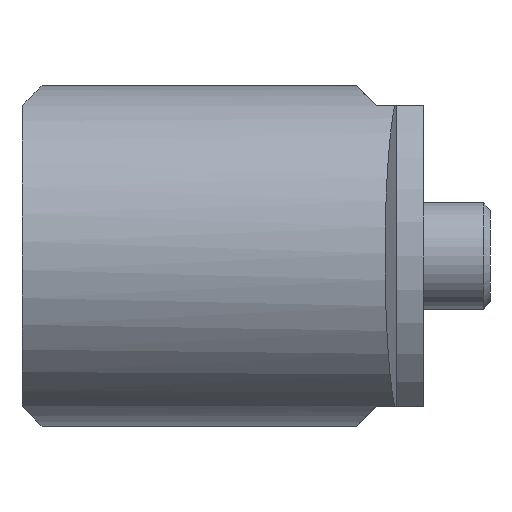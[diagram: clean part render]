
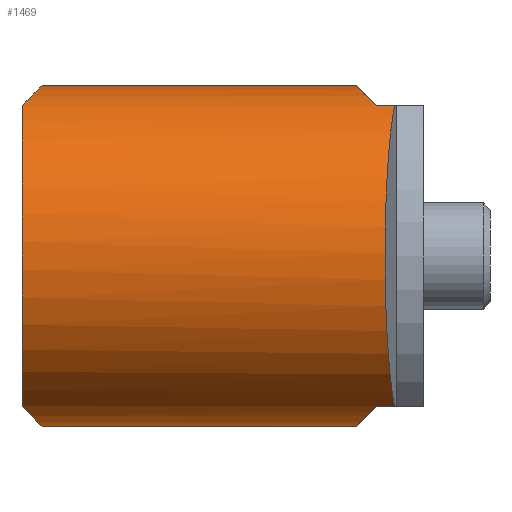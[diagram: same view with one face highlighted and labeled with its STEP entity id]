
A CAD part, left-side view. The second image highlights one B-rep face of the part: STEP entity #1469.
In plain terms, the highlighted cylindrical face has radius 12.75 mm (diameter 25.5 mm), a partial arc.
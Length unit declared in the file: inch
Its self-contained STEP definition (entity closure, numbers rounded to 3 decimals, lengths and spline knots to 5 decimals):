
#33=ELLIPSE('',#1576,0.70989,0.50197);
#34=ELLIPSE('',#1579,0.70989,0.50197);
#35=ELLIPSE('',#1582,0.70989,0.50197);
#36=ELLIPSE('',#1584,0.70989,0.50197);
#37=ELLIPSE('',#1588,0.50473,0.50197);
#115=FACE_OUTER_BOUND('',#198,.T.);
#198=EDGE_LOOP('',(#980,#981,#982,#983,#984,#985,#986,#987,#988,#989));
#294=LINE('',#2295,#372);
#307=LINE('',#2325,#385);
#316=LINE('',#2350,#394);
#317=LINE('',#2352,#395);
#372=VECTOR('',#1806,0.3937);
#385=VECTOR('',#1825,0.3937);
#394=VECTOR('',#1852,0.3937);
#395=VECTOR('',#1855,0.3937);
#454=CIRCLE('',#1590,0.50197);
#572=VERTEX_POINT('',#2285);
#573=VERTEX_POINT('',#2286);
#576=VERTEX_POINT('',#2294);
#581=VERTEX_POINT('',#2306);
#582=VERTEX_POINT('',#2307);
#589=VERTEX_POINT('',#2322);
#590=VERTEX_POINT('',#2324);
#592=VERTEX_POINT('',#2330);
#594=VERTEX_POINT('',#2336);
#595=VERTEX_POINT('',#2337);
#726=EDGE_CURVE('',#572,#573,#33,.T.);
#730=EDGE_CURVE('',#573,#576,#294,.T.);
#736=EDGE_CURVE('',#581,#582,#34,.T.);
#744=EDGE_CURVE('',#590,#589,#307,.T.);
#747=EDGE_CURVE('',#589,#592,#35,.T.);
#750=EDGE_CURVE('',#594,#595,#36,.T.);
#756=EDGE_CURVE('',#576,#590,#37,.T.);
#757=EDGE_CURVE('',#592,#594,#316,.T.);
#758=EDGE_CURVE('',#581,#595,#454,.T.);
#759=EDGE_CURVE('',#572,#582,#317,.T.);
#980=ORIENTED_EDGE('',*,*,#726,.T.);
#981=ORIENTED_EDGE('',*,*,#730,.T.);
#982=ORIENTED_EDGE('',*,*,#756,.T.);
#983=ORIENTED_EDGE('',*,*,#744,.T.);
#984=ORIENTED_EDGE('',*,*,#747,.T.);
#985=ORIENTED_EDGE('',*,*,#757,.T.);
#986=ORIENTED_EDGE('',*,*,#750,.T.);
#987=ORIENTED_EDGE('',*,*,#758,.F.);
#988=ORIENTED_EDGE('',*,*,#736,.T.);
#989=ORIENTED_EDGE('',*,*,#759,.F.);
#1342=CYLINDRICAL_SURFACE('',#1589,0.50197);
#1469=ADVANCED_FACE('',(#115),#1342,.T.);
#1576=AXIS2_PLACEMENT_3D('',#2287,#1799,#1800);
#1579=AXIS2_PLACEMENT_3D('',#2308,#1814,#1815);
#1582=AXIS2_PLACEMENT_3D('',#2331,#1830,#1831);
#1584=AXIS2_PLACEMENT_3D('',#2338,#1836,#1837);
#1588=AXIS2_PLACEMENT_3D('',#2348,#1848,#1849);
#1589=AXIS2_PLACEMENT_3D('',#2349,#1850,#1851);
#1590=AXIS2_PLACEMENT_3D('',#2351,#1853,#1854);
#1799=DIRECTION('center_axis',(0.,0.707,0.707));
#1800=DIRECTION('ref_axis',(0.,-0.707,0.707));
#1806=DIRECTION('',(0.,-1.,0.));
#1814=DIRECTION('center_axis',(0.,-0.707,0.707));
#1815=DIRECTION('ref_axis',(0.,0.707,0.707));
#1825=DIRECTION('',(0.,1.,0.));
#1830=DIRECTION('center_axis',(0.,0.707,-0.707));
#1831=DIRECTION('ref_axis',(0.,0.707,0.707));
#1836=DIRECTION('center_axis',(0.,-0.707,-0.707));
#1837=DIRECTION('ref_axis',(0.,-0.707,0.707));
#1848=DIRECTION('center_axis',(0.105,0.995,0.));
#1849=DIRECTION('ref_axis',(-0.995,0.105,0.));
#1850=DIRECTION('center_axis',(0.,-1.,0.));
#1851=DIRECTION('ref_axis',(0.,0.,1.));
#1852=DIRECTION('',(0.,1.,0.));
#1853=DIRECTION('center_axis',(0.,1.,0.));
#1854=DIRECTION('ref_axis',(0.,0.,1.));
#1855=DIRECTION('',(0.,1.,0.));
#2285=CARTESIAN_POINT('',(-0.24641,-0.27051,-0.50197));
#2286=CARTESIAN_POINT('',(-0.48263,-0.32957,-0.44291));
#2287=CARTESIAN_POINT('Origin',(-0.24641,-0.77248,0.));
#2294=CARTESIAN_POINT('',(-0.48263,-0.38304,-0.44291));
#2295=CARTESIAN_POINT('',(-0.48263,0.71374,-0.44291));
#2306=CARTESIAN_POINT('',(-0.48263,0.71374,-0.44291));
#2307=CARTESIAN_POINT('',(-0.24641,0.65468,-0.50197));
#2308=CARTESIAN_POINT('Origin',(-0.24641,1.15665,0.));
#2322=CARTESIAN_POINT('',(-0.48263,-0.32957,0.44291));
#2324=CARTESIAN_POINT('',(-0.48263,-0.38304,0.44291));
#2325=CARTESIAN_POINT('',(-0.48263,0.71374,0.44291));
#2330=CARTESIAN_POINT('',(-0.24641,-0.27051,0.50197));
#2331=CARTESIAN_POINT('Origin',(-0.24641,-0.77248,0.));
#2336=CARTESIAN_POINT('',(-0.24641,0.65468,0.50197));
#2337=CARTESIAN_POINT('',(-0.48263,0.71374,0.44291));
#2338=CARTESIAN_POINT('Origin',(-0.24641,1.15665,0.));
#2348=CARTESIAN_POINT('Origin',(-0.24641,-0.40787,0.));
#2349=CARTESIAN_POINT('Origin',(-0.24641,0.71374,0.));
#2350=CARTESIAN_POINT('',(-0.24641,0.71374,0.50197));
#2351=CARTESIAN_POINT('Origin',(-0.24641,0.71374,0.));
#2352=CARTESIAN_POINT('',(-0.24641,0.71374,-0.50197));
